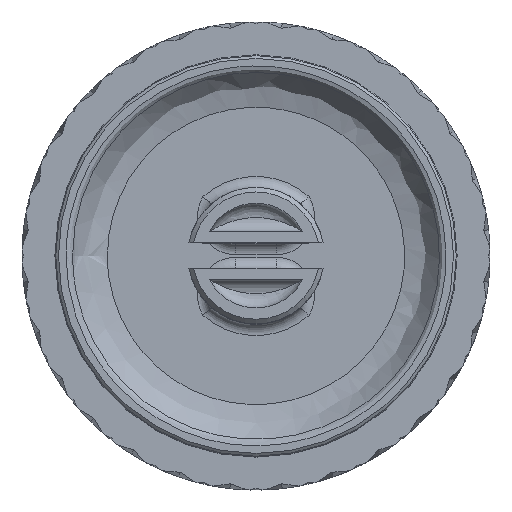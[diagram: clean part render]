
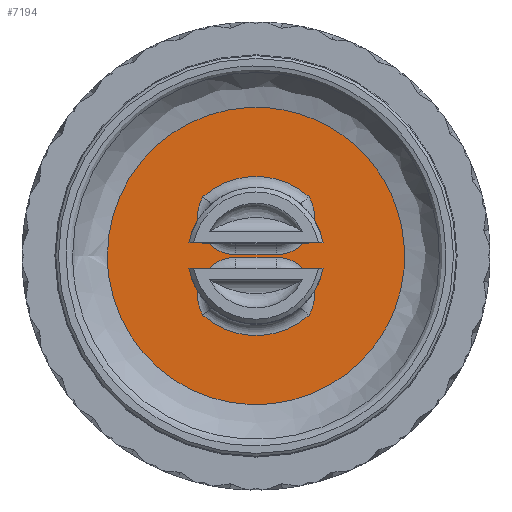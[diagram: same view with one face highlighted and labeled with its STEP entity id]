
A CAD part, top view. The second image highlights one B-rep face of the part: STEP entity #7194.
In plain terms, the highlighted planar face has unit normal (0, 0, 1).
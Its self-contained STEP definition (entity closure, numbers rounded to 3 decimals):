
#354=FACE_BOUND('',#1822,.T.);
#355=FACE_BOUND('',#1823,.T.);
#846=PLANE('',#8087);
#1000=CIRCLE('',#8077,8.5);
#1002=CIRCLE('',#8080,4.073);
#1006=CIRCLE('',#8086,4.073);
#1007=CIRCLE('',#8088,8.5);
#1008=CIRCLE('',#8089,4.073);
#1009=CIRCLE('',#8090,4.073);
#1416=FACE_OUTER_BOUND('',#1821,.T.);
#1821=EDGE_LOOP('',(#6695));
#1822=EDGE_LOOP('',(#6696,#6697,#6698,#6699));
#1823=EDGE_LOOP('',(#6700,#6701,#6702,#6703));
#1907=B_SPLINE_CURVE_WITH_KNOTS('',3,(#13752,#13753,#13754,#13755,#13756,
#13757,#13758,#13759,#13760,#13761,#13762,#13763,#13764,#13765,#13766,#13767,
#13768,#13769,#13770),.UNSPECIFIED.,.T.,.F.,(4,1,1,1,1,1,1,1,1,1,1,1,1,
1,1,1,4),(-14.877,-14.169,-13.46,-12.516,
-12.043,-11.571,-11.099,-10.626,
-9.682,-9.21,-8.737,-7.793,
-7.084,-6.376,-5.667,-5.313,
-4.959),.UNSPECIFIED.);
#2318=LINE('',#13743,#2733);
#2320=LINE('',#13777,#2735);
#2733=VECTOR('',#10240,10.);
#2735=VECTOR('',#10256,10.);
#3439=VERTEX_POINT('',#13704);
#3440=VERTEX_POINT('',#13705);
#3442=VERTEX_POINT('',#13738);
#3443=VERTEX_POINT('',#13742);
#3445=VERTEX_POINT('',#13751);
#3446=VERTEX_POINT('',#13771);
#3447=VERTEX_POINT('',#13772);
#3448=VERTEX_POINT('',#13774);
#3449=VERTEX_POINT('',#13776);
#4531=EDGE_CURVE('',#3439,#3440,#1000,.T.);
#4535=EDGE_CURVE('',#3440,#3442,#1002,.T.);
#4537=EDGE_CURVE('',#3442,#3443,#2318,.T.);
#4541=EDGE_CURVE('',#3443,#3439,#1006,.T.);
#4542=EDGE_CURVE('',#3445,#3445,#1907,.T.);
#4543=EDGE_CURVE('',#3446,#3447,#1007,.T.);
#4544=EDGE_CURVE('',#3448,#3446,#1008,.T.);
#4545=EDGE_CURVE('',#3449,#3448,#2320,.T.);
#4546=EDGE_CURVE('',#3447,#3449,#1009,.T.);
#6695=ORIENTED_EDGE('',*,*,#4542,.F.);
#6696=ORIENTED_EDGE('',*,*,#4541,.F.);
#6697=ORIENTED_EDGE('',*,*,#4537,.F.);
#6698=ORIENTED_EDGE('',*,*,#4535,.F.);
#6699=ORIENTED_EDGE('',*,*,#4531,.F.);
#6700=ORIENTED_EDGE('',*,*,#4543,.F.);
#6701=ORIENTED_EDGE('',*,*,#4544,.F.);
#6702=ORIENTED_EDGE('',*,*,#4545,.F.);
#6703=ORIENTED_EDGE('',*,*,#4546,.F.);
#7194=ADVANCED_FACE('',(#1416,#354,#355),#846,.T.);
#8077=AXIS2_PLACEMENT_3D('',#13706,#10228,#10229);
#8080=AXIS2_PLACEMENT_3D('',#13739,#10234,#10235);
#8086=AXIS2_PLACEMENT_3D('',#13749,#10248,#10249);
#8087=AXIS2_PLACEMENT_3D('',#13750,#10250,#10251);
#8088=AXIS2_PLACEMENT_3D('',#13773,#10252,#10253);
#8089=AXIS2_PLACEMENT_3D('',#13775,#10254,#10255);
#8090=AXIS2_PLACEMENT_3D('',#13778,#10257,#10258);
#10228=DIRECTION('center_axis',(0.,0.,
1.));
#10229=DIRECTION('ref_axis',(0.,1.,0.));
#10234=DIRECTION('center_axis',(0.,0.,
1.));
#10235=DIRECTION('ref_axis',(-0.856,-0.517,0.));
#10240=DIRECTION('',(1.,0.,0.));
#10248=DIRECTION('center_axis',(0.,0.,
1.));
#10249=DIRECTION('ref_axis',(0.856,-0.517,0.));
#10250=DIRECTION('center_axis',(0.,0.,
1.));
#10251=DIRECTION('ref_axis',(1.,0.,0.));
#10252=DIRECTION('center_axis',(0.,0.,
1.));
#10253=DIRECTION('ref_axis',(0.,-1.,0.));
#10254=DIRECTION('center_axis',(0.,0.,
1.));
#10255=DIRECTION('ref_axis',(-0.856,0.517,0.));
#10256=DIRECTION('',(-1.,0.,0.));
#10257=DIRECTION('center_axis',(0.,0.,
1.));
#10258=DIRECTION('ref_axis',(0.856,0.517,0.));
#13704=CARTESIAN_POINT('',(5.671,6.331,-7.));
#13705=CARTESIAN_POINT('',(-5.671,6.331,-7.));
#13706=CARTESIAN_POINT('Origin',(0.,0.,
-7.));
#13738=CARTESIAN_POINT('',(-2.186,0.15,-7.));
#13739=CARTESIAN_POINT('Origin',(-2.186,4.223,-7.));
#13742=CARTESIAN_POINT('',(2.186,0.15,-7.));
#13743=CARTESIAN_POINT('',(-2.923,0.15,-7.));
#13749=CARTESIAN_POINT('Origin',(2.186,4.223,-7.));
#13750=CARTESIAN_POINT('Origin',(0.,0.,
-7.));
#13751=CARTESIAN_POINT('',(-15.88,-0.013,-7.));
#13752=CARTESIAN_POINT('Ctrl Pts',(-15.88,-0.013,
-7.));
#13753=CARTESIAN_POINT('Ctrl Pts',(-15.882,2.354,-7.));
#13754=CARTESIAN_POINT('Ctrl Pts',(-14.804,7.112,-7.));
#13755=CARTESIAN_POINT('Ctrl Pts',(-9.743,13.477,-7.));
#13756=CARTESIAN_POINT('Ctrl Pts',(-2.816,16.205,-7.));
#13757=CARTESIAN_POINT('Ctrl Pts',(3.582,15.712,-7.));
#13758=CARTESIAN_POINT('Ctrl Pts',(8.055,13.965,-7.));
#13759=CARTESIAN_POINT('Ctrl Pts',(11.811,10.966,-7.));
#13760=CARTESIAN_POINT('Ctrl Pts',(15.436,5.676,-7.));
#13761=CARTESIAN_POINT('Ctrl Pts',(16.42,-0.878,
-7.));
#13762=CARTESIAN_POINT('Ctrl Pts',(14.53,-6.959,-7.));
#13763=CARTESIAN_POINT('Ctrl Pts',(10.943,-12.282,-7.));
#13764=CARTESIAN_POINT('Ctrl Pts',(4.495,-16.012,-7.));
#13765=CARTESIAN_POINT('Ctrl Pts',(-3.634,-16.012,
-7.));
#13766=CARTESIAN_POINT('Ctrl Pts',(-10.222,-12.859,
-7.));
#13767=CARTESIAN_POINT('Ctrl Pts',(-14.03,-8.086,
-7.));
#13768=CARTESIAN_POINT('Ctrl Pts',(-15.606,-3.587,
-7.));
#13769=CARTESIAN_POINT('Ctrl Pts',(-15.879,-1.196,
-7.));
#13770=CARTESIAN_POINT('Ctrl Pts',(-15.88,-0.013,
-7.));
#13771=CARTESIAN_POINT('',(-5.671,-6.331,-7.));
#13772=CARTESIAN_POINT('',(5.671,-6.331,-7.));
#13773=CARTESIAN_POINT('Origin',(0.,0.,
-7.));
#13774=CARTESIAN_POINT('',(-2.186,-0.15,-7.));
#13775=CARTESIAN_POINT('Origin',(-2.186,-4.223,-7.));
#13776=CARTESIAN_POINT('',(2.186,-0.15,-7.));
#13777=CARTESIAN_POINT('',(-3.587,-0.15,-7.));
#13778=CARTESIAN_POINT('Origin',(2.186,-4.223,-7.));
